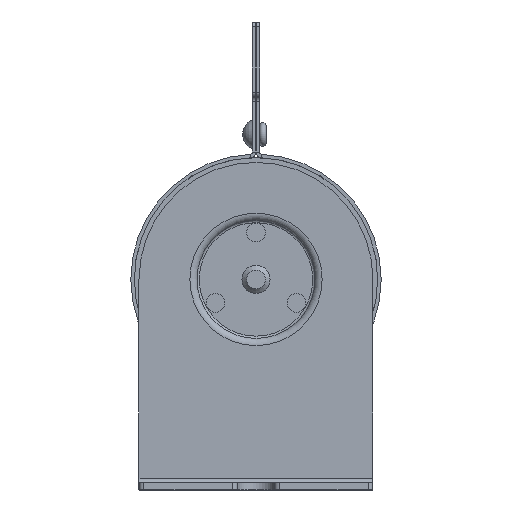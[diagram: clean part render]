
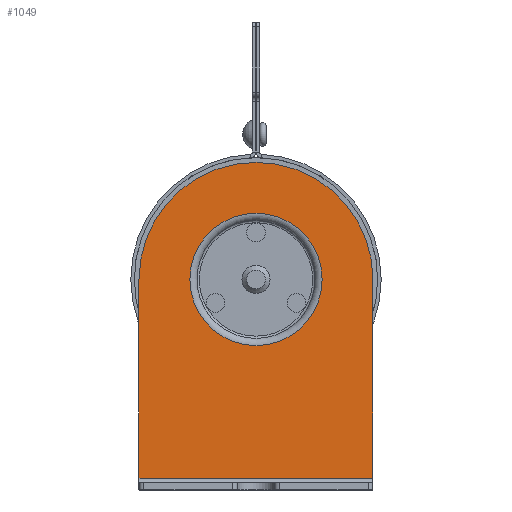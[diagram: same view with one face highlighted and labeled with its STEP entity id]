
A CAD part, left-side view. The second image highlights one B-rep face of the part: STEP entity #1049.
In plain terms, the highlighted planar face has unit normal (-1, 0, 0) as drawn and (1, 0, 0) by its records, which use the part's own axes.
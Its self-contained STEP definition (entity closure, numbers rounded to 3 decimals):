
#1049=ADVANCED_FACE('',(#1876,#1878),#1880,.T.);
#1876=FACE_BOUND('',#1877,.T.);
#1877=EDGE_LOOP('',(#3048,#3049,#3050,#3051));
#1878=FACE_BOUND('',#1879,.T.);
#1879=EDGE_LOOP('',(#3052));
#1880=PLANE('',#1881);
#1881=AXIS2_PLACEMENT_3D('',#1882,#1883,#1884);
#1882=CARTESIAN_POINT('',(1.5,0.,0.));
#1883=DIRECTION('',(1.,0.,0.));
#1884=DIRECTION('',(0.,1.,0.));
#3048=ORIENTED_EDGE('',*,*,#3684,.T.);
#3049=ORIENTED_EDGE('',*,*,#3685,.T.);
#3050=ORIENTED_EDGE('',*,*,#3686,.T.);
#3051=ORIENTED_EDGE('',*,*,#3687,.T.);
#3052=ORIENTED_EDGE('',*,*,#3682,.F.);
#3682=EDGE_CURVE('',#4033,#4033,#4034,.T.);
#3684=EDGE_CURVE('',#4037,#4038,#4039,.T.);
#3685=EDGE_CURVE('',#4038,#4040,#4041,.T.);
#3686=EDGE_CURVE('',#4040,#4042,#4043,.T.);
#3687=EDGE_CURVE('',#4042,#4037,#4044,.T.);
#4033=VERTEX_POINT('',#4649);
#4034=CIRCLE('',#4650,14.14);
#4037=VERTEX_POINT('',#4659);
#4038=VERTEX_POINT('',#4660);
#4039=LINE('',#4661,#4662);
#4040=VERTEX_POINT('',#4664);
#4041=LINE('',#4665,#4666);
#4042=VERTEX_POINT('',#4668);
#4043=CIRCLE('',#4669,25.);
#4044=LINE('',#4673,#4674);
#4649=CARTESIAN_POINT('',(1.5,14.14,10.));
#4650=AXIS2_PLACEMENT_3D('',#4651,#4652,#4653);
#4651=CARTESIAN_POINT('',(1.5,0.,10.));
#4652=DIRECTION('',(1.,0.,0.));
#4653=DIRECTION('',(0.,1.,0.));
#4659=CARTESIAN_POINT('',(1.5,-25.,-32.5));
#4660=CARTESIAN_POINT('',(1.5,25.,-32.5));
#4661=CARTESIAN_POINT('',(1.5,-25.,-32.5));
#4662=VECTOR('',#4663,1.);
#4663=DIRECTION('',(0.,1.,0.));
#4664=CARTESIAN_POINT('',(1.5,25.,10.));
#4665=CARTESIAN_POINT('',(1.5,25.,-32.5));
#4666=VECTOR('',#4667,1.);
#4667=DIRECTION('',(0.,0.,1.));
#4668=CARTESIAN_POINT('',(1.5,-25.,10.));
#4669=AXIS2_PLACEMENT_3D('',#4670,#4671,#4672);
#4670=CARTESIAN_POINT('',(1.5,0.,10.));
#4671=DIRECTION('',(1.,0.,0.));
#4672=DIRECTION('',(0.,1.,0.));
#4673=CARTESIAN_POINT('',(1.5,-25.,10.));
#4674=VECTOR('',#4675,1.);
#4675=DIRECTION('',(0.,0.,-1.));
